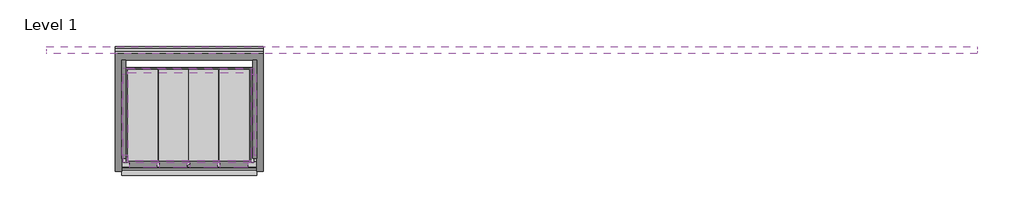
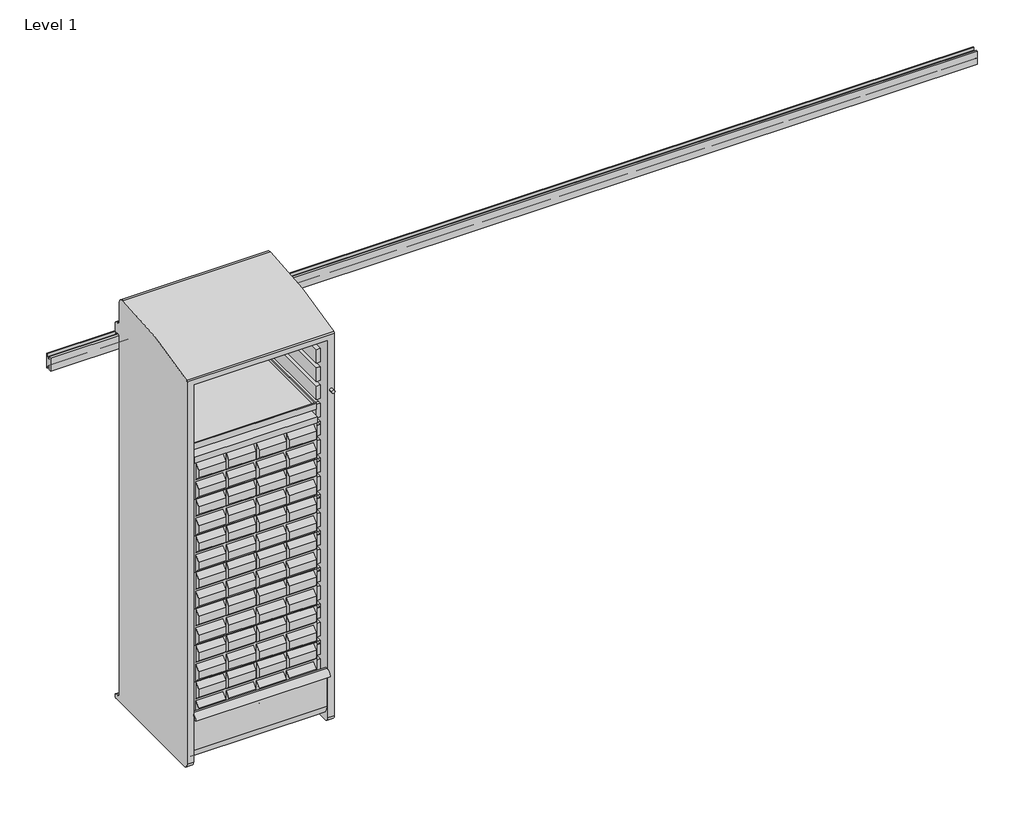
# One storey: 12 furniture elements.
"""IFC4 building model written with IfcOpenShell, lengths in millimetres."""

from ifc_helpers import new_model, si_unit, origin, place, context, project, spatial, transform, mapped, element, save
from components import furniture_ac9ddba1, furniture_6e313942, furniture_3f30126e, furniture_e18d46ed, furniture_4407979e, furniture_a8ecdf84, furniture_104e2584, furniture_6345e87a, furniture_c38e6d16, furniture_4464ff87, furniture_6a29f4cb, standard_144w_a9847ba4

model = new_model("IFC4")

# Units and contexts
model_context = context("Model", 3, world=origin())
ifc_project = project(units=[si_unit("LENGTHUNIT", "METRE", prefix="MILLI")], contexts=[model_context])

# Site, building, storey
site = spatial("IfcSite", under=ifc_project)
building = spatial("IfcBuilding", under=site)
storey = spatial("IfcBuildingStorey", under=building, Name="Level 1", Elevation=0.0)

# Furniture
placement = place(None, origin())
furniture_shape = furniture_ac9ddba1(model_context)
element("IfcFurniture", 1, ObjectType="HermanMiller_CoStruc_CO561_LockerWithTambourDoor : 66\"H x 20\"D x 22\"W Wlock", at=placement, inside=storey, context=model_context, shape_type="MappedRepresentation", body=[
    mapped(furniture_shape, transform((680.2475335, -388.8203138, 0.0), x_axis=(1.0, 0.0, 0.0), y_axis=(0.0, 1.0, 0.0), z_axis=(0.0, 0.0, 1.0))),
])
furniture_2_shape = furniture_6e313942(model_context)
element("IfcFurniture", 2, ObjectType="HermanMiller_CoStruc_CO203_CTrayShelf : 14\"D x 20\"W", at=placement, inside=storey, context=model_context, shape_type="MappedRepresentation", body=[
    mapped(furniture_2_shape, transform((680.3034135, -411.9063738, 0.0), x_axis=(1.0, 0.0, 0.0), y_axis=(0.0, 1.0, 0.0), z_axis=(0.0, 0.0, 1.0))),
])
furniture_3_shape = furniture_3f30126e(model_context)
element("IfcFurniture", 3, ObjectType="HermanMiller_CoStruc_CO371_LockedDrawerWithLockableLid : B - 6\"H x 15\"D x 20\"W Lid Wlock", at=placement, inside=storey, context=model_context, shape_type="MappedRepresentation", body=[
    mapped(furniture_3_shape, transform((686.4310985, -421.4161853, 0.0), x_axis=(1.0, 0.0, 0.0), y_axis=(0.0, 1.0, 0.0), z_axis=(0.0, 0.0, 1.0))),
])
furniture_4_shape = furniture_e18d46ed(model_context)
element("IfcFurniture", 4, ObjectType="HermanMiller_CoStruc_CO566_Cassette Cover : 1\"H x 14\"D x 19\"W", at=placement, inside=storey, context=model_context, shape_type="MappedRepresentation", body=[
    mapped(furniture_4_shape, transform((681.8239349, -423.013897, 0.0), x_axis=(1.0, 0.0, 0.0), y_axis=(0.0, 1.0, 0.0), z_axis=(0.0, 0.0, 1.0))),
])
furniture_5_shape = furniture_4407979e(model_context)
element("IfcFurniture", 5, ObjectType="HermanMiller_CoStruc_CO565_Cassette Assembly : 6H x 15D x 20W", at=placement, inside=storey, context=model_context, shape_type="MappedRepresentation", body=[
    mapped(furniture_5_shape, transform((683.4784135, -423.0188738, 0.0), x_axis=(1.0, 0.0, 0.0), y_axis=(0.0, 1.0, 0.0), z_axis=(0.0, 0.0, 1.0))),
])
furniture_6_shape = furniture_a8ecdf84(model_context)
element("IfcFurniture", 6, ObjectType="HermanMiller_CoStruc_CO565_Cassette Assembly : 6H x 15D x 20W", at=placement, inside=storey, context=model_context, shape_type="MappedRepresentation", body=[
    mapped(furniture_6_shape, transform((683.4785984, -423.0163854, 0.0), x_axis=(1.0, 0.0, 0.0), y_axis=(0.0, 1.0, 0.0), z_axis=(0.0, 0.0, 1.0))),
])
furniture_7_shape = furniture_104e2584(model_context)
element("IfcFurniture", 7, ObjectType="HermanMiller_CoStruc_CO565_Cassette Assembly : 6H x 15D x 20W", at=placement, inside=storey, context=model_context, shape_type="MappedRepresentation", body=[
    mapped(furniture_7_shape, transform((683.4785984, -423.0163854, 0.0), x_axis=(1.0, 0.0, 0.0), y_axis=(0.0, 1.0, 0.0), z_axis=(0.0, 0.0, 1.0))),
])
furniture_8_shape = furniture_6345e87a(model_context)
element("IfcFurniture", 8, ObjectType="HermanMiller_CoStruc_CO565_Cassette Assembly : 6H x 15D x 20W", at=placement, inside=storey, context=model_context, shape_type="MappedRepresentation", body=[
    mapped(furniture_8_shape, transform((683.4785984, -423.0163854, 0.0), x_axis=(1.0, 0.0, 0.0), y_axis=(0.0, 1.0, 0.0), z_axis=(0.0, 0.0, 1.0))),
])
furniture_9_shape = furniture_c38e6d16(model_context)
element("IfcFurniture", 9, ObjectType="HermanMiller_CoStruc_CO565_Cassette Assembly : 6H x 15D x 20W", at=placement, inside=storey, context=model_context, shape_type="MappedRepresentation", body=[
    mapped(furniture_9_shape, transform((683.4785984, -423.0163854, 0.0), x_axis=(1.0, 0.0, 0.0), y_axis=(0.0, 1.0, 0.0), z_axis=(0.0, 0.0, 1.0))),
])
furniture_10_shape = furniture_4464ff87(model_context)
element("IfcFurniture", 10, ObjectType="HermanMiller_CoStruc_CO565_Cassette Assembly : 6H x 15D x 20W", at=placement, inside=storey, context=model_context, shape_type="MappedRepresentation", body=[
    mapped(furniture_10_shape, transform((683.4785984, -423.0163854, 0.0), x_axis=(1.0, 0.0, 0.0), y_axis=(0.0, 1.0, 0.0), z_axis=(0.0, 0.0, 1.0))),
])
furniture_11_shape = furniture_6a29f4cb(model_context)
element("IfcFurniture", 11, ObjectType="HermanMiller_CoStruc_CO565_Cassette Assembly : 6H x 15D x 20W", at=placement, inside=storey, context=model_context, shape_type="MappedRepresentation", body=[
    mapped(furniture_11_shape, transform((683.4785984, -423.0163854, 0.0), x_axis=(1.0, 0.0, 0.0), y_axis=(0.0, 1.0, 0.0), z_axis=(0.0, 0.0, 1.0))),
])
standard_144w_shape = standard_144w_a9847ba4(model_context)
element("IfcFurniture", 12, ObjectType="HermanMiller_CoStruc_CO282_StandardRail : Standard 144W", at=placement, inside=storey, context=model_context, shape_type="MappedRepresentation", body=[
    mapped(standard_144w_shape, transform((2015.3350335, -142.7578138, 0.0), x_axis=(1.0, 0.0, 0.0), y_axis=(0.0, 1.0, 0.0), z_axis=(0.0, 0.0, 1.0))),
])

save(model, "model.ifc")
